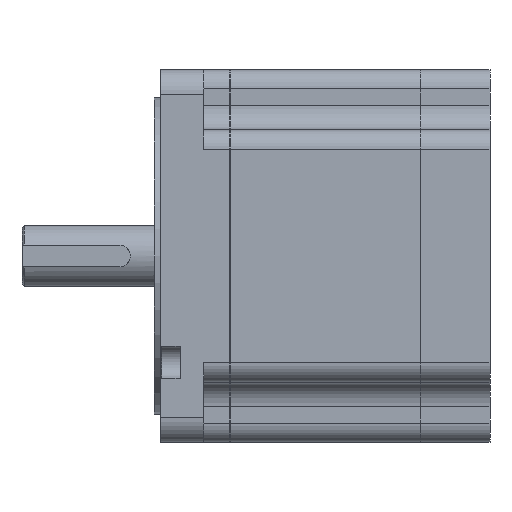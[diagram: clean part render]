
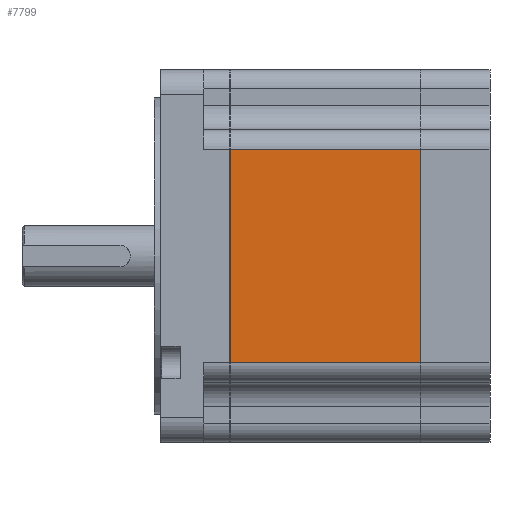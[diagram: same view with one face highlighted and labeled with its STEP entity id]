
A CAD part, left-side view. The second image highlights one B-rep face of the part: STEP entity #7799.
In plain terms, the highlighted planar face has unit normal (-1, 0, 0).
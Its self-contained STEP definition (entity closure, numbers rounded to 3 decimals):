
#13 = CARTESIAN_POINT ( 'NONE',  ( -43., -49.992, -24.65 ) ) ;
#424 = CARTESIAN_POINT ( 'NONE',  ( -43., -66., 24.65 ) ) ;
#590 = EDGE_LOOP ( 'NONE', ( #805, #5198, #4820, #6823 ) ) ;
#688 = EDGE_CURVE ( 'NONE', #7775, #911, #3726, .T. ) ;
#805 = ORIENTED_EDGE ( 'NONE', *, *, #3923, .F. ) ;
#812 = VECTOR ( 'NONE', #4263, 1000. ) ;
#911 = VERTEX_POINT ( 'NONE', #2937 ) ;
#932 = DIRECTION ( 'NONE',  ( 1., 0., 0. ) ) ;
#998 = VECTOR ( 'NONE', #6660, 1000. ) ;
#2112 = VECTOR ( 'NONE', #8333, 1000. ) ;
#2217 = DIRECTION ( 'NONE',  ( 0., 0., -1. ) ) ;
#2305 = VECTOR ( 'NONE', #6985, 1000. ) ;
#2844 = CARTESIAN_POINT ( 'NONE',  ( -43., -49.992, 24.65 ) ) ;
#2937 = CARTESIAN_POINT ( 'NONE',  ( -43., -6.008, -24.65 ) ) ;
#3090 = VERTEX_POINT ( 'NONE', #7183 ) ;
#3169 = AXIS2_PLACEMENT_3D ( 'NONE', #4204, #932, #2217 ) ;
#3726 = LINE ( 'NONE', #4534, #2112 ) ;
#3923 = EDGE_CURVE ( 'NONE', #5357, #7775, #8357, .T. ) ;
#4204 = CARTESIAN_POINT ( 'NONE',  ( -43., 10., 37.3 ) ) ;
#4263 = DIRECTION ( 'NONE',  ( 0., 1., 0. ) ) ;
#4343 = EDGE_CURVE ( 'NONE', #5357, #3090, #4906, .T. ) ;
#4518 = CARTESIAN_POINT ( 'NONE',  ( -43., -6.008, 37.3 ) ) ;
#4534 = CARTESIAN_POINT ( 'NONE',  ( -43., -66., -24.65 ) ) ;
#4820 = ORIENTED_EDGE ( 'NONE', *, *, #7166, .F. ) ;
#4906 = LINE ( 'NONE', #424, #812 ) ;
#5198 = ORIENTED_EDGE ( 'NONE', *, *, #4343, .T. ) ;
#5357 = VERTEX_POINT ( 'NONE', #2844 ) ;
#5741 = CARTESIAN_POINT ( 'NONE',  ( -43., -49.992, 37.3 ) ) ;
#6021 = PLANE ( 'NONE',  #3169 ) ;
#6525 = LINE ( 'NONE', #4518, #998 ) ;
#6660 = DIRECTION ( 'NONE',  ( 0., 0., 1. ) ) ;
#6823 = ORIENTED_EDGE ( 'NONE', *, *, #688, .F. ) ;
#6985 = DIRECTION ( 'NONE',  ( 0., 0., -1. ) ) ;
#7166 = EDGE_CURVE ( 'NONE', #911, #3090, #6525, .T. ) ;
#7183 = CARTESIAN_POINT ( 'NONE',  ( -43., -6.008, 24.65 ) ) ;
#7775 = VERTEX_POINT ( 'NONE', #13 ) ;
#7799 = ADVANCED_FACE ( 'NONE', ( #8035 ), #6021, .F. ) ;
#8035 = FACE_OUTER_BOUND ( 'NONE', #590, .T. ) ;
#8333 = DIRECTION ( 'NONE',  ( 0., 1., 0. ) ) ;
#8357 = LINE ( 'NONE', #5741, #2305 ) ;
